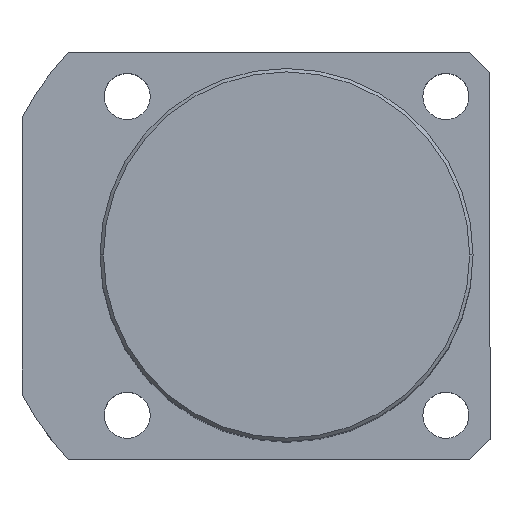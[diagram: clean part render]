
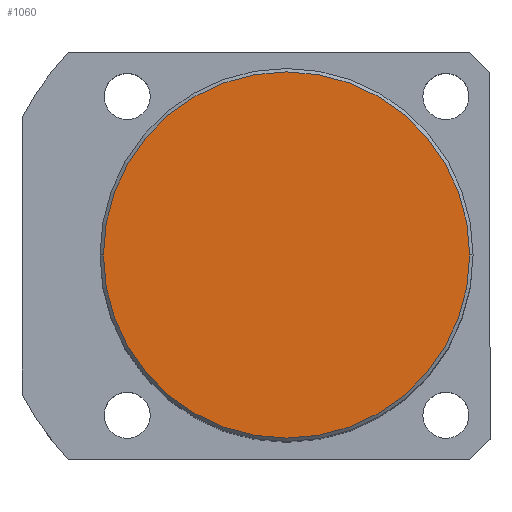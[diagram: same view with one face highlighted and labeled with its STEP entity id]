
A CAD part, top view. The second image highlights one B-rep face of the part: STEP entity #1060.
In plain terms, the highlighted planar face has unit normal (0, 0, 1).
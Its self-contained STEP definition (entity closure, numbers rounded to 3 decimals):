
#46 = CARTESIAN_POINT ( 'NONE',  ( 27., 0., 85. ) ) ;
#127 = DIRECTION ( 'NONE',  ( 0., 0., 1. ) ) ;
#140 = CIRCLE ( 'NONE', #844, 27. ) ;
#272 = CARTESIAN_POINT ( 'NONE',  ( 0., 0., 85. ) ) ;
#336 = DIRECTION ( 'NONE',  ( 0., 0., 1. ) ) ;
#454 = DIRECTION ( 'NONE',  ( 1., 0., 0. ) ) ;
#487 = CARTESIAN_POINT ( 'NONE',  ( 0., 0., 85. ) ) ;
#542 = EDGE_LOOP ( 'NONE', ( #1953, #1105 ) ) ;
#844 = AXIS2_PLACEMENT_3D ( 'NONE', #1778, #127, #1921 ) ;
#902 = AXIS2_PLACEMENT_3D ( 'NONE', #272, #1303, #454 ) ;
#1031 = AXIS2_PLACEMENT_3D ( 'NONE', #487, #336, #1217 ) ;
#1033 = VERTEX_POINT ( 'NONE', #46 ) ;
#1060 = ADVANCED_FACE ( 'NONE', ( #1403 ), #1399, .T. ) ;
#1105 = ORIENTED_EDGE ( 'NONE', *, *, #1666, .T. ) ;
#1167 = CARTESIAN_POINT ( 'NONE',  ( -27., 0., 85. ) ) ;
#1217 = DIRECTION ( 'NONE',  ( 1., 0., 0. ) ) ;
#1303 = DIRECTION ( 'NONE',  ( 0., 0., 1. ) ) ;
#1399 = PLANE ( 'NONE',  #1031 ) ;
#1403 = FACE_OUTER_BOUND ( 'NONE', #542, .T. ) ;
#1482 = EDGE_CURVE ( 'NONE', #1872, #1033, #140, .T. ) ;
#1585 = CIRCLE ( 'NONE', #902, 27. ) ;
#1666 = EDGE_CURVE ( 'NONE', #1033, #1872, #1585, .T. ) ;
#1778 = CARTESIAN_POINT ( 'NONE',  ( 0., 0., 85. ) ) ;
#1872 = VERTEX_POINT ( 'NONE', #1167 ) ;
#1921 = DIRECTION ( 'NONE',  ( 1., 0., 0. ) ) ;
#1953 = ORIENTED_EDGE ( 'NONE', *, *, #1482, .T. ) ;
